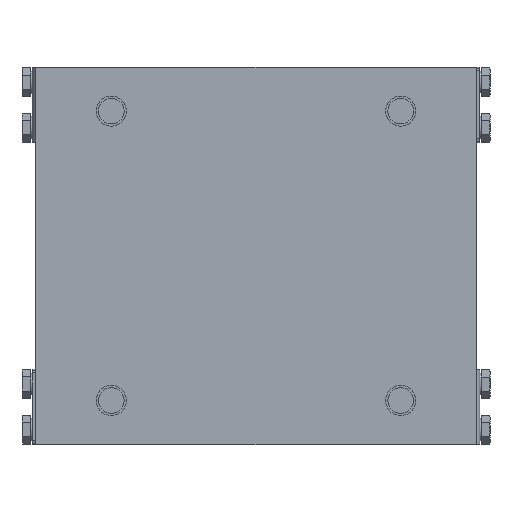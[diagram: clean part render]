
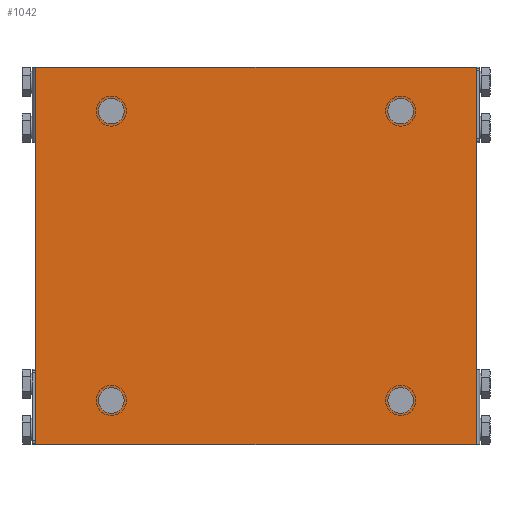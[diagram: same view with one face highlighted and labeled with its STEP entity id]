
A CAD part, top view. The second image highlights one B-rep face of the part: STEP entity #1042.
In plain terms, the highlighted planar face has unit normal (0, 0, 1).
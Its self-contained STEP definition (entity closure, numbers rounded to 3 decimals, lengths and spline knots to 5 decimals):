
#1042=ADVANCED_FACE('360:635',(#1514,#1515,#1516,#1517,#1518),#1519,.T.);
#1514=FACE_BOUND('',#2412,.T.);
#1515=FACE_BOUND('',#2413,.T.);
#1516=FACE_BOUND('',#2414,.T.);
#1517=FACE_BOUND('',#2415,.T.);
#1518=FACE_OUTER_BOUND('',#2416,.T.);
#1519=PLANE('',#2417);
#2412=EDGE_LOOP('',(#3439,#3440));
#2413=EDGE_LOOP('',(#3441,#3442));
#2414=EDGE_LOOP('',(#3443,#3444));
#2415=EDGE_LOOP('',(#3445,#3446));
#2416=EDGE_LOOP('',(#3447,#3448,#3449,#3450));
#2417=AXIS2_PLACEMENT_3D('',#3451,#3452,#3453);
#3439=ORIENTED_EDGE('',*,*,#6369,.T.);
#3440=ORIENTED_EDGE('',*,*,#6372,.T.);
#3441=ORIENTED_EDGE('',*,*,#6365,.T.);
#3442=ORIENTED_EDGE('',*,*,#6373,.T.);
#3443=ORIENTED_EDGE('',*,*,#6361,.T.);
#3444=ORIENTED_EDGE('',*,*,#6374,.T.);
#3445=ORIENTED_EDGE('',*,*,#6357,.T.);
#3446=ORIENTED_EDGE('',*,*,#6375,.T.);
#3447=ORIENTED_EDGE('',*,*,#6376,.T.);
#3448=ORIENTED_EDGE('',*,*,#6377,.T.);
#3449=ORIENTED_EDGE('',*,*,#6378,.T.);
#3450=ORIENTED_EDGE('',*,*,#6379,.T.);
#3451=CARTESIAN_POINT('',(0.0,0.0,0.01));
#3452=DIRECTION('',(0.0,0.0,1.0));
#3453=DIRECTION('',(1.0,-0.0,0.0));
#6357=EDGE_CURVE('380:244',#7316,#7313,#7317,.T.);
#6361=EDGE_CURVE('380:638',#7324,#7321,#7325,.T.);
#6365=EDGE_CURVE('381:6601',#7332,#7329,#7333,.T.);
#6369=EDGE_CURVE('381:7091',#7340,#7337,#7341,.T.);
#6372=EDGE_CURVE('381:7091',#7337,#7340,#7345,.T.);
#6373=EDGE_CURVE('381:6601',#7329,#7332,#7346,.T.);
#6374=EDGE_CURVE('380:638',#7321,#7324,#7347,.T.);
#6375=EDGE_CURVE('380:244',#7313,#7316,#7348,.T.);
#6376=EDGE_CURVE('360:656',#7349,#7350,#7351,.T.);
#6377=EDGE_CURVE('360:668',#7350,#7352,#7353,.T.);
#6378=EDGE_CURVE('360:677',#7352,#7354,#7355,.T.);
#6379=EDGE_CURVE('360:683',#7354,#7349,#7356,.T.);
#7313=VERTEX_POINT('',#8808);
#7316=VERTEX_POINT('',#8812);
#7317=CIRCLE('',#8813,0.0051);
#7321=VERTEX_POINT('',#8818);
#7324=VERTEX_POINT('',#8822);
#7325=CIRCLE('',#8823,0.0051);
#7329=VERTEX_POINT('',#8828);
#7332=VERTEX_POINT('',#8832);
#7333=CIRCLE('',#8833,0.0051);
#7337=VERTEX_POINT('',#8838);
#7340=VERTEX_POINT('',#8842);
#7341=CIRCLE('',#8843,0.0051);
#7345=CIRCLE('',#8848,0.0051);
#7346=CIRCLE('',#8849,0.0051);
#7347=CIRCLE('',#8850,0.0051);
#7348=CIRCLE('',#8851,0.0051);
#7349=VERTEX_POINT('',#8852);
#7350=VERTEX_POINT('',#8853);
#7351=LINE('',#8854,#8855);
#7352=VERTEX_POINT('',#8856);
#7353=LINE('',#8857,#8858);
#7354=VERTEX_POINT('',#8859);
#7355=LINE('',#8860,#8861);
#7356=LINE('',#8862,#8863);
#8808=CARTESIAN_POINT('',(0.0626,0.0575,0.01));
#8812=CARTESIAN_POINT('',(0.0524,0.0575,0.01));
#8813=AXIS2_PLACEMENT_3D('',#11431,#11432,#11433);
#8818=CARTESIAN_POINT('',(-0.0524,0.0575,0.01));
#8822=CARTESIAN_POINT('',(-0.0626,0.0575,0.01));
#8823=AXIS2_PLACEMENT_3D('',#11439,#11440,#11441);
#8828=CARTESIAN_POINT('',(0.0626,-0.0575,0.01));
#8832=CARTESIAN_POINT('',(0.0524,-0.0575,0.01));
#8833=AXIS2_PLACEMENT_3D('',#11447,#11448,#11449);
#8838=CARTESIAN_POINT('',(-0.0524,-0.0575,0.01));
#8842=CARTESIAN_POINT('',(-0.0626,-0.0575,0.01));
#8843=AXIS2_PLACEMENT_3D('',#11455,#11456,#11457);
#8848=AXIS2_PLACEMENT_3D('',#11462,#11463,#11464);
#8849=AXIS2_PLACEMENT_3D('',#11465,#11466,#11467);
#8850=AXIS2_PLACEMENT_3D('',#11468,#11469,#11470);
#8851=AXIS2_PLACEMENT_3D('',#11471,#11472,#11473);
#8852=CARTESIAN_POINT('',(-0.0875,0.075,0.01));
#8853=CARTESIAN_POINT('',(-0.0875,-0.075,0.01));
#8854=CARTESIAN_POINT('',(-0.0875,0.075,0.01));
#8855=VECTOR('',#11474,1.0);
#8856=CARTESIAN_POINT('',(0.0875,-0.075,0.01));
#8857=CARTESIAN_POINT('',(-0.0875,-0.075,0.01));
#8858=VECTOR('',#11475,1.0);
#8859=CARTESIAN_POINT('',(0.0875,0.075,0.01));
#8860=CARTESIAN_POINT('',(0.0875,-0.075,0.01));
#8861=VECTOR('',#11476,1.0);
#8862=CARTESIAN_POINT('',(0.0875,0.075,0.01));
#8863=VECTOR('',#11477,1.0);
#11431=CARTESIAN_POINT('',(0.0575,0.0575,0.01));
#11432=DIRECTION('',(0.0,0.0,-1.0));
#11433=DIRECTION('',(1.0,0.0,0.0));
#11439=CARTESIAN_POINT('',(-0.0575,0.0575,0.01));
#11440=DIRECTION('',(0.0,0.0,-1.0));
#11441=DIRECTION('',(1.0,0.0,0.0));
#11447=CARTESIAN_POINT('',(0.0575,-0.0575,0.01));
#11448=DIRECTION('',(0.0,0.0,-1.0));
#11449=DIRECTION('',(1.0,0.0,0.0));
#11455=CARTESIAN_POINT('',(-0.0575,-0.0575,0.01));
#11456=DIRECTION('',(0.0,0.0,-1.0));
#11457=DIRECTION('',(1.0,0.0,0.0));
#11462=CARTESIAN_POINT('',(-0.0575,-0.0575,0.01));
#11463=DIRECTION('',(0.0,0.0,-1.0));
#11464=DIRECTION('',(1.0,0.0,0.0));
#11465=CARTESIAN_POINT('',(0.0575,-0.0575,0.01));
#11466=DIRECTION('',(0.0,0.0,-1.0));
#11467=DIRECTION('',(1.0,0.0,0.0));
#11468=CARTESIAN_POINT('',(-0.0575,0.0575,0.01));
#11469=DIRECTION('',(0.0,0.0,-1.0));
#11470=DIRECTION('',(1.0,0.0,0.0));
#11471=CARTESIAN_POINT('',(0.0575,0.0575,0.01));
#11472=DIRECTION('',(0.0,0.0,-1.0));
#11473=DIRECTION('',(1.0,0.0,0.0));
#11474=DIRECTION('',(0.,-1.0,0.0));
#11475=DIRECTION('',(1.0,0.,0.0));
#11476=DIRECTION('',(0.0,1.0,0.0));
#11477=DIRECTION('',(-1.0,0.,0.0));
